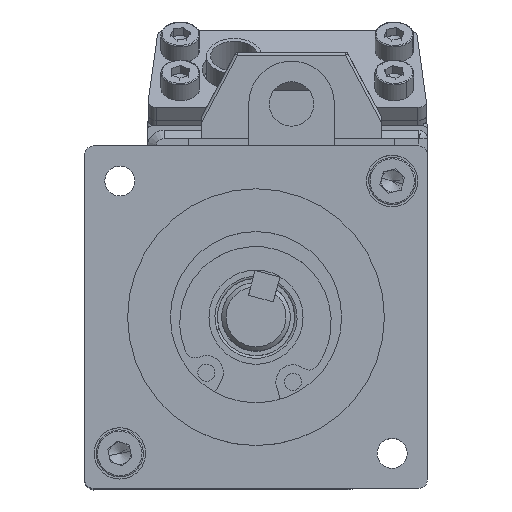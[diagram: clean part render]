
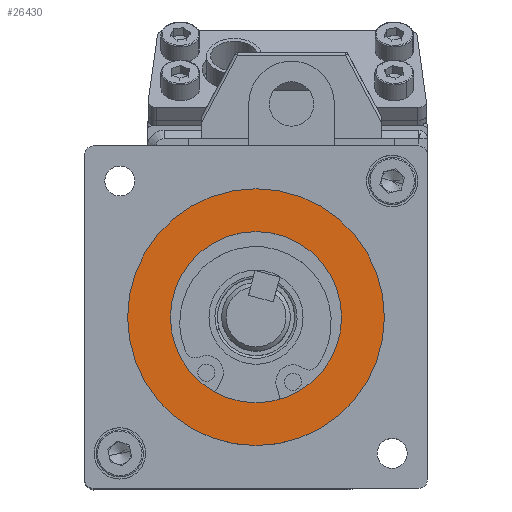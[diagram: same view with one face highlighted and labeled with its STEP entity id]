
A CAD part, top view. The second image highlights one B-rep face of the part: STEP entity #26430.
In plain terms, the highlighted planar face has unit normal (0, 0, 1).
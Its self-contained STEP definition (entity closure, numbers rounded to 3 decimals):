
#464 = CIRCLE ( 'NONE', #26862, 10. ) ;
#1028 = EDGE_LOOP ( 'NONE', ( #2960, #32608 ) ) ;
#2807 = CARTESIAN_POINT ( 'NONE',  ( 68.478, 20., 115.595 ) ) ;
#2960 = ORIENTED_EDGE ( 'NONE', *, *, #27291, .F. ) ;
#4200 = CARTESIAN_POINT ( 'NONE',  ( 68.478, 20., 115.595 ) ) ;
#5198 = CARTESIAN_POINT ( 'NONE',  ( 58.478, 20., 115.595 ) ) ;
#5322 = DIRECTION ( 'NONE',  ( 1., 0., 0. ) ) ;
#5688 = AXIS2_PLACEMENT_3D ( 'NONE', #4200, #21837, #6725 ) ;
#5751 = CIRCLE ( 'NONE', #16206, 15. ) ;
#6096 = FACE_OUTER_BOUND ( 'NONE', #7581, .T. ) ;
#6725 = DIRECTION ( 'NONE',  ( 1., 0., 0. ) ) ;
#7189 = AXIS2_PLACEMENT_3D ( 'NONE', #28437, #13367, #30964 ) ;
#7581 = EDGE_LOOP ( 'NONE', ( #24265, #16810 ) ) ;
#7928 = CARTESIAN_POINT ( 'NONE',  ( 68.478, 20., 115.595 ) ) ;
#8006 = DIRECTION ( 'NONE',  ( 0., 0., 1. ) ) ;
#8199 = CIRCLE ( 'NONE', #20638, 15. ) ;
#10502 = DIRECTION ( 'NONE',  ( 1., 0., 0. ) ) ;
#11265 = VERTEX_POINT ( 'NONE', #23483 ) ;
#12905 = EDGE_CURVE ( 'NONE', #11265, #16472, #5751, .T. ) ;
#13367 = DIRECTION ( 'NONE',  ( 0., 0., 1. ) ) ;
#14994 = CARTESIAN_POINT ( 'NONE',  ( 53.478, 20., 115.595 ) ) ;
#15946 = CIRCLE ( 'NONE', #7189, 10. ) ;
#16206 = AXIS2_PLACEMENT_3D ( 'NONE', #2807, #20466, #5322 ) ;
#16472 = VERTEX_POINT ( 'NONE', #14994 ) ;
#16810 = ORIENTED_EDGE ( 'NONE', *, *, #12905, .T. ) ;
#17181 = EDGE_CURVE ( 'NONE', #23882, #19500, #464, .T. ) ;
#19500 = VERTEX_POINT ( 'NONE', #5198 ) ;
#20466 = DIRECTION ( 'NONE',  ( 0., 0., 1. ) ) ;
#20638 = AXIS2_PLACEMENT_3D ( 'NONE', #23107, #8006, #25668 ) ;
#21837 = DIRECTION ( 'NONE',  ( 0., 0., 1. ) ) ;
#23107 = CARTESIAN_POINT ( 'NONE',  ( 68.478, 20., 115.595 ) ) ;
#23391 = EDGE_CURVE ( 'NONE', #16472, #11265, #8199, .T. ) ;
#23483 = CARTESIAN_POINT ( 'NONE',  ( 83.478, 20., 115.595 ) ) ;
#23882 = VERTEX_POINT ( 'NONE', #27954 ) ;
#24265 = ORIENTED_EDGE ( 'NONE', *, *, #23391, .T. ) ;
#25586 = DIRECTION ( 'NONE',  ( 0., 0., 1. ) ) ;
#25668 = DIRECTION ( 'NONE',  ( 1., 0., 0. ) ) ;
#26430 = ADVANCED_FACE ( 'NONE', ( #31386, #6096 ), #29382, .T. ) ;
#26862 = AXIS2_PLACEMENT_3D ( 'NONE', #7928, #25586, #10502 ) ;
#27291 = EDGE_CURVE ( 'NONE', #19500, #23882, #15946, .T. ) ;
#27954 = CARTESIAN_POINT ( 'NONE',  ( 78.478, 20., 115.595 ) ) ;
#28437 = CARTESIAN_POINT ( 'NONE',  ( 68.478, 20., 115.595 ) ) ;
#29382 = PLANE ( 'NONE',  #5688 ) ;
#30964 = DIRECTION ( 'NONE',  ( 1., 0., 0. ) ) ;
#31386 = FACE_BOUND ( 'NONE', #1028, .T. ) ;
#32608 = ORIENTED_EDGE ( 'NONE', *, *, #17181, .F. ) ;
